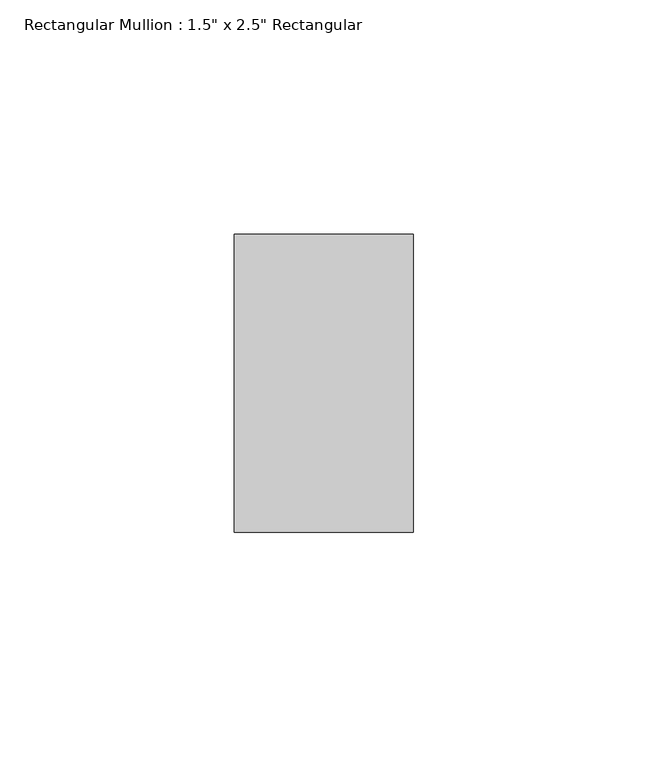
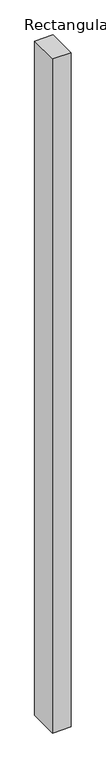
"""IFC4 building model written with IfcOpenShell, lengths in millimetres: member geometry."""

from ifc_helpers import new_model, si_unit, frame, origin, place, context, project, spatial, polyline, outline, extrude, source, transform, mapped, element, save


def member_9952366a(model_context):
    return source(origin(), model_context, "Body", "SweptSolid", [
        extrude(outline(polyline([(19.05, 31.75), (19.05, -31.75), (-19.05, -31.75), (-19.05, 31.75), (19.05, 31.75)])), frame((0.0, 0.0, -1466.8500003), z_axis=(0.0, 0.0, 1.0), x_axis=(1.0, 0.0, 0.0)), (0.0, 0.0, 1.0), 1466.8500003),
    ])


if __name__ == "__main__":
    model = new_model("IFC4")
    model_context = context("Model", 3, world=origin())
    ifc_project = project(units=[si_unit("LENGTHUNIT", "METRE", prefix="MILLI")], contexts=[model_context])
    site = spatial("IfcSite", under=ifc_project)
    building = spatial("IfcBuilding", under=site)
    placement = place(None, origin())
    member_shape = member_9952366a(model_context)
    element("IfcMember", 1, ObjectType="Rectangular Mullion : 1.5\" x 2.5\" Rectangular", at=placement, inside=building, context=model_context, shape_type="MappedRepresentation", body=[
        mapped(member_shape, transform((0.0, 0.0, 0.0), x_axis=(1.0, 0.0, 0.0), y_axis=(0.0, 1.0, 0.0), z_axis=(0.0, 0.0, 1.0))),
    ])
    save(model, "model.ifc")
